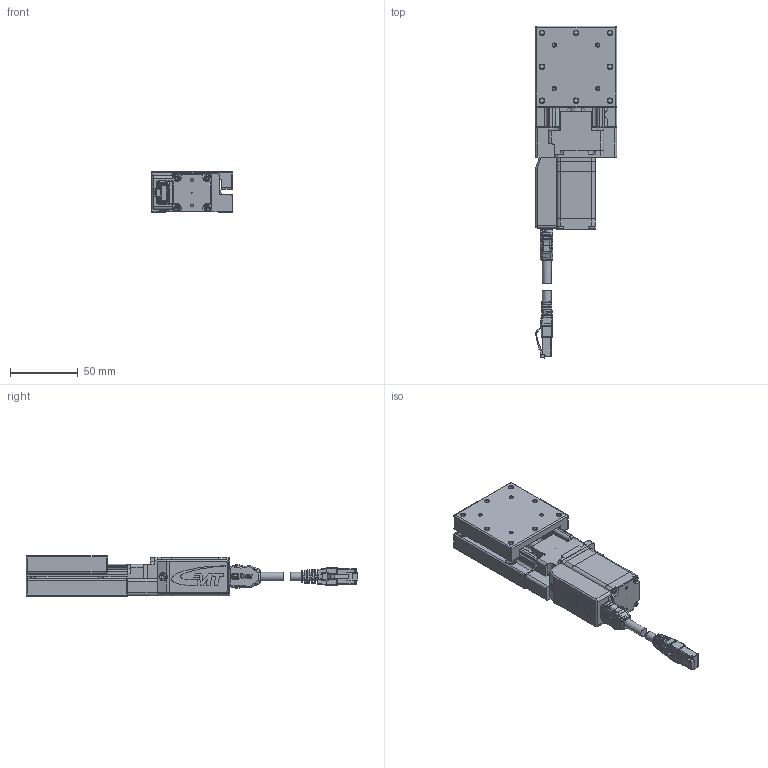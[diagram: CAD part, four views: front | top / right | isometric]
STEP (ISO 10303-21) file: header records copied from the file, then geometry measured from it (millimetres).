
FILE_DESCRIPTION(/* description */ (''),/* implementation_level */ '2;1');
FILE_NAME(/* name */ 'CXS6030-NT',/* time_stamp */ '2022-08-24T21:10:38+02:00',/* author */ (''),/* organization */ (''),/* preprocessor_version */ 'ST-DEVELOPER v16.7',/* originating_system */ 'Solid Edge',/* authorisation */ 'Unknown');
FILE_SCHEMA (('AUTOMOTIVE_DESIGN {1 0 10303 214 3 1 1}'));
Products named in the file (14): CXS6030-NT; CXS6030; Group1^CXS6030-S模糊化; Group2^CXS6030-S模糊化; 09451819000_100744258MOD000C; 09451511525_100534264MOD000A; Motorflansch-ix-001; ISO 4762_M2,5x5_8.8; ISO 4762_M3x10_8.8; Gehäuse-ix-001; Platine-ix-001; PCB ix Industrial-001; 09452819001; ST2818L1006-B
Assembly tree (13 placements, depth 3):
  CXS6030-NT
    CXS6030
      Group1^CXS6030-S模糊化
      Group2^CXS6030-S模糊化
    09451819000_100744258MOD000C
    09451511525_100534264MOD000A
    Motorflansch-ix-001
    ISO 4762_M2,5x5_8.8
    ISO 4762_M3x10_8.8
    Gehäuse-ix-001
    Platine-ix-001
      PCB ix Industrial-001
      09452819001
    ST2818L1006-B
Bounding box: 60 x 244.43 x 30 mm (x, y, z)
Volume: 156603 mm3; surface area: 75451 mm2
Topology: 24 solids, 27 shells, 6185 faces, 17320 edges, 11355 vertices
Faces by surface type: plane 4313, cylinder 1094, bspline 587, cone 91, torus 62, sphere 38
Full cylindrical faces by diameter (mm): 0.279 x1, 0.5 x1, 0.7 x3, 0.9 x54, 1 x7, 1.4 x54, 1.45 x2, 2.013 x8, 2.2 x4, 2.459 x1, 2.5 x5, 2.8 x4, 3 x2, 3.2 x1, 3.3 x8, 3.5 x1, 3.8 x5, 4.5 x4, 4.68 x1, 5 x2, 5.5 x2, 6 x2, 6.2 x1, 6.3 x1, 6.4 x1, 7.5 x1, 7.8 x4, 8 x1, 17 x2, 22 x3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
Entity records: 259844 total; most frequent: CARTESIAN_POINT 73115, ORIENTED_EDGE 33886, DIRECTION 29127, EDGE_CURVE 16979, LINE 13133, VECTOR 13133, VERTEX_POINT 11295, AXIS2_PLACEMENT_3D 7997
